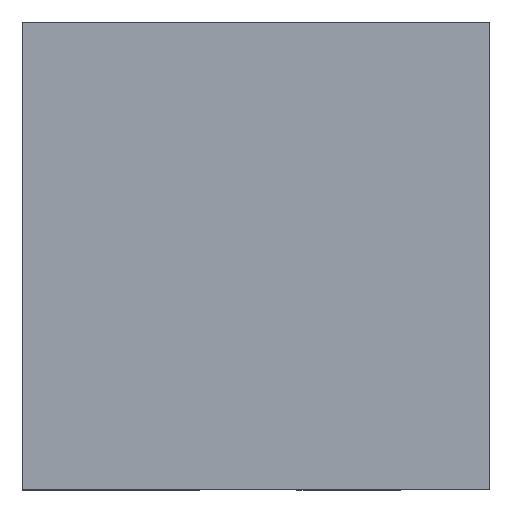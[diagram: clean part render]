
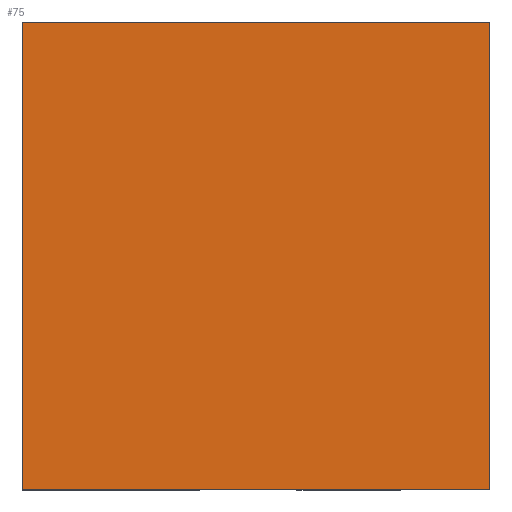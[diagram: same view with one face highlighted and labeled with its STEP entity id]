
A CAD part, top view. The second image highlights one B-rep face of the part: STEP entity #75.
In plain terms, the highlighted planar face has unit normal (0, 0, 1).
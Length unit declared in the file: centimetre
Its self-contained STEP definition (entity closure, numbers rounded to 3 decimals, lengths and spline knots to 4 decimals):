
#9 = CARTESIAN_POINT ( 'NONE',  ( 0., 0., 1000. ) ) ;
#15 = VERTEX_POINT ( 'NONE', #529 ) ;
#32 = LINE ( 'NONE', #1060, #104 ) ;
#75 = ADVANCED_FACE ( 'NONE', ( #358 ), #731, .T. ) ;
#91 = LINE ( 'NONE', #1214, #659 ) ;
#104 = VECTOR ( 'NONE', #378, 100. ) ;
#172 = DIRECTION ( 'NONE',  ( 0., 0., 1. ) ) ;
#234 = VERTEX_POINT ( 'NONE', #969 ) ;
#246 = VERTEX_POINT ( 'NONE', #9 ) ;
#247 = CARTESIAN_POINT ( 'NONE',  ( 1000., 1000., 1000. ) ) ;
#331 = DIRECTION ( 'NONE',  ( 1., 0., 0. ) ) ;
#358 = FACE_OUTER_BOUND ( 'NONE', #648, .T. ) ;
#360 = LINE ( 'NONE', #247, #374 ) ;
#374 = VECTOR ( 'NONE', #1018, 100. ) ;
#378 = DIRECTION ( 'NONE',  ( 0., -1., 0. ) ) ;
#390 = AXIS2_PLACEMENT_3D ( 'NONE', #1109, #172, #743 ) ;
#442 = EDGE_CURVE ( 'NONE', #234, #555, #360, .T. ) ;
#489 = ORIENTED_EDGE ( 'NONE', *, *, #638, .T. ) ;
#529 = CARTESIAN_POINT ( 'NONE',  ( 0., 1000., 1000. ) ) ;
#555 = VERTEX_POINT ( 'NONE', #774 ) ;
#615 = ORIENTED_EDGE ( 'NONE', *, *, #442, .T. ) ;
#638 = EDGE_CURVE ( 'NONE', #246, #234, #1175, .T. ) ;
#648 = EDGE_LOOP ( 'NONE', ( #1080, #489, #615, #1166 ) ) ;
#659 = VECTOR ( 'NONE', #1118, 100. ) ;
#708 = CARTESIAN_POINT ( 'NONE',  ( 0., 0., 1000. ) ) ;
#731 = PLANE ( 'NONE',  #390 ) ;
#743 = DIRECTION ( 'NONE',  ( 1., 0., 0. ) ) ;
#774 = CARTESIAN_POINT ( 'NONE',  ( 1000., 1000., 1000. ) ) ;
#852 = EDGE_CURVE ( 'NONE', #555, #15, #91, .T. ) ;
#969 = CARTESIAN_POINT ( 'NONE',  ( 1000., 0., 1000. ) ) ;
#1007 = EDGE_CURVE ( 'NONE', #15, #246, #32, .T. ) ;
#1018 = DIRECTION ( 'NONE',  ( 0., 1., 0. ) ) ;
#1060 = CARTESIAN_POINT ( 'NONE',  ( 0., 1000., 1000. ) ) ;
#1080 = ORIENTED_EDGE ( 'NONE', *, *, #1007, .T. ) ;
#1102 = VECTOR ( 'NONE', #331, 100. ) ;
#1109 = CARTESIAN_POINT ( 'NONE',  ( 0., 0., 1000. ) ) ;
#1118 = DIRECTION ( 'NONE',  ( -1., 0., 0. ) ) ;
#1166 = ORIENTED_EDGE ( 'NONE', *, *, #852, .T. ) ;
#1175 = LINE ( 'NONE', #708, #1102 ) ;
#1214 = CARTESIAN_POINT ( 'NONE',  ( 0., 1000., 1000. ) ) ;
